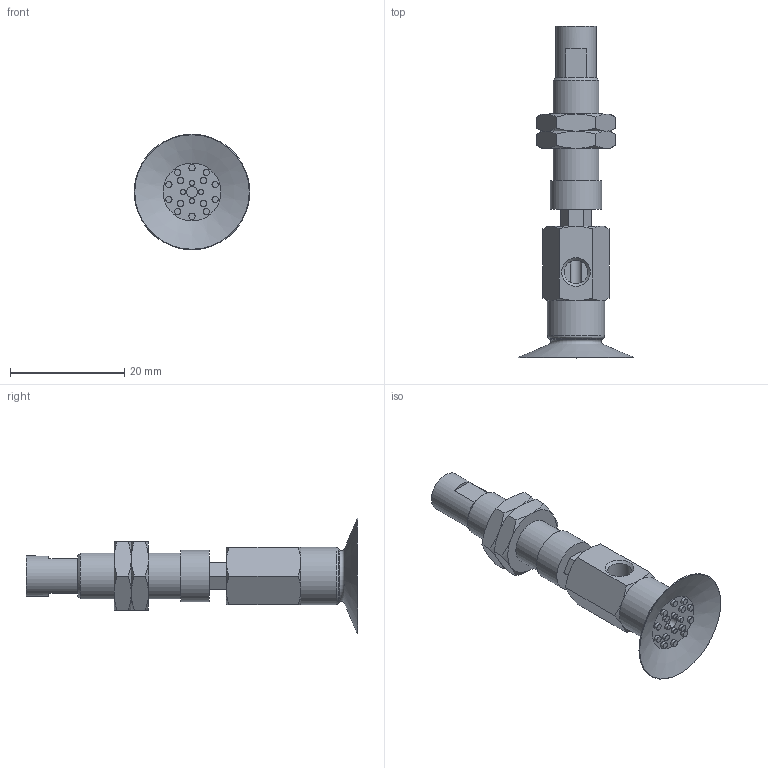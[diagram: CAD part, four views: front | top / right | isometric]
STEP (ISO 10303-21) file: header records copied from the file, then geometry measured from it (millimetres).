
FILE_DESCRIPTION(('STEP AP203'),'1');
FILE_NAME('.stp','2025-03-13T03:19:39',(' '),(' '),'Spatial InterOp 3D',' ',' ');
FILE_SCHEMA(('CONFIG_CONTROL_DESIGN'));
Length unit declared in the file: millimetre
Products named in the file (6): BNABPAYH-20A-3-※; NAPATH-20A-3--M; NAPATH-20A-3--F; Nut-10A-S; CONNECTOR-20A-3-PA; BPAG-20A-※
Assembly tree (6 placements, depth 2):
  BNABPAYH-20A-3-※
    NAPATH-20A-3--M
    NAPATH-20A-3--F
    Nut-10A-S  x2
    CONNECTOR-20A-3-PA
    BPAG-20A-※
Bounding box: 20.19 x 58 x 20.19 mm (x, y, z)
Volume: 3707.1 mm3; surface area: 4670.2 mm2
Topology: 6 solids, 6 shells, 175 faces, 355 edges, 219 vertices
Faces by surface type: plane 81, cone 51, cylinder 33, torus 10
Full cylindrical faces by diameter (mm): 0.9 x4, 1.1 x14, 2 x2, 4 x2, 4.134 x2, 5 x1, 6 x2, 7 x1, 7.188 x2, 8 x1, 9 x1, 10 x1
Entity records: 4164 total; most frequent: CARTESIAN_POINT 935, DIRECTION 624, ORIENTED_EDGE 490, AXIS2_PLACEMENT_3D 274, EDGE_CURVE 245, EDGE_LOOP 242, FACE_OUTER_BOUND 194, VERTEX_POINT 183
